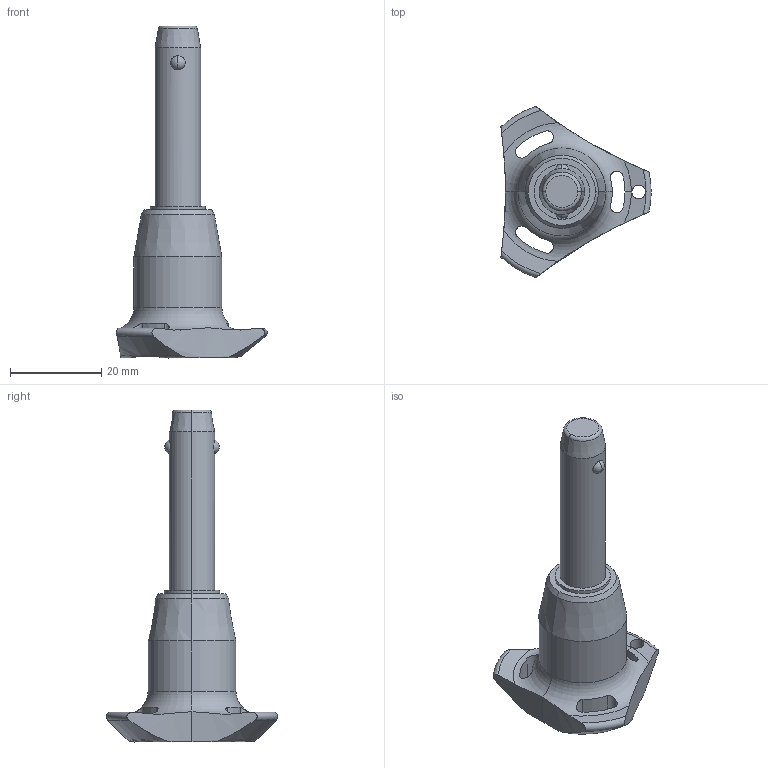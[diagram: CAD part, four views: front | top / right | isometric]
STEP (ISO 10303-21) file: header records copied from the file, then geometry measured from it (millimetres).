
FILE_DESCRIPTION (( 'STEP AP203' ), '1' );
FILE_NAME ('QR1704.M10-030-S.step', '2025-11-12T09:19:00', ( '' ), ( '' ), 'SwSTEP 2.0', 'SolidWorks 2019', '' );
FILE_SCHEMA (( 'CONFIG_CONTROL_DESIGN' ));
Length unit declared in the file: millimetre
Products named in the file (1): QR1704.M10-030-S
Bounding box: 33 x 37.51 x 72.9 mm (x, y, z)
Volume: 13436.1 mm3; surface area: 5106.9 mm2
Topology: 1 solids, 1 shells, 65 faces, 174 edges, 109 vertices
Faces by surface type: cylinder 30, cone 14, torus 11, sphere 6, plane 4
Entity records: 2758 total; most frequent: CARTESIAN_POINT 1085, ORIENTED_EDGE 348, DIRECTION 331, EDGE_CURVE 174, AXIS2_PLACEMENT_3D 147, VERTEX_POINT 109, CIRCLE 81, EDGE_LOOP 71
